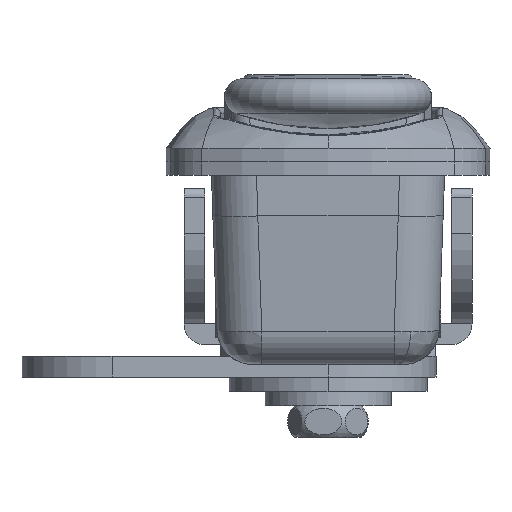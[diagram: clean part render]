
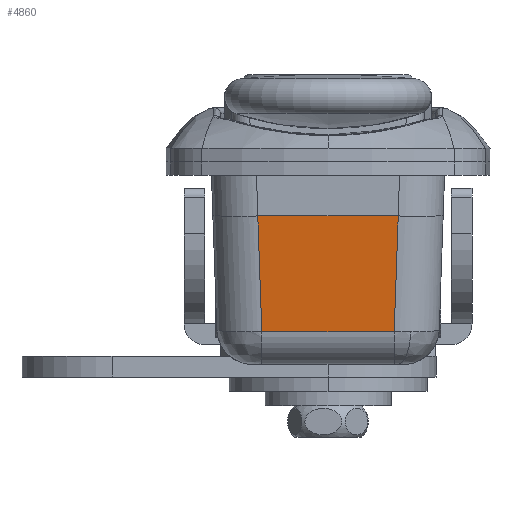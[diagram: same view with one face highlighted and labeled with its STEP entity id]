
A CAD part, front view. The second image highlights one B-rep face of the part: STEP entity #4860.
In plain terms, the highlighted planar face has unit normal (0, -0.996, -0.087).
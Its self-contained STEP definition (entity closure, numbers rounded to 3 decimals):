
#770 = EDGE_LOOP ( 'NONE', ( #8386, #8389, #8388, #8390, #8391, #8392 ) ) ;
#4860 = ADVANCED_FACE ( 'NONE', ( #17280 ), #16669, .F. ) ;
#6728 = VERTEX_POINT ( 'NONE', #19323 ) ;
#6729 = VERTEX_POINT ( 'NONE', #19324 ) ;
#6758 = VERTEX_POINT ( 'NONE', #19353 ) ;
#6759 = VERTEX_POINT ( 'NONE', #19354 ) ;
#6760 = VERTEX_POINT ( 'NONE', #19355 ) ;
#6761 = VERTEX_POINT ( 'NONE', #19356 ) ;
#7337 = EDGE_CURVE ( 'NONE', #6728, #6729, #20258, .T. ) ;
#7405 = EDGE_CURVE ( 'NONE', #6759, #6760, #20938, .T. ) ;
#7406 = EDGE_CURVE ( 'NONE', #6758, #6759, #20941, .T. ) ;
#7407 = EDGE_CURVE ( 'NONE', #6760, #6761, #20944, .T. ) ;
#7408 = EDGE_CURVE ( 'NONE', #6761, #6729, #18734, .T. ) ;
#7409 = EDGE_CURVE ( 'NONE', #6728, #6758, #18735, .T. ) ;
#8386 = ORIENTED_EDGE ( 'NONE', *, *, #7406, .T. ) ;
#8388 = ORIENTED_EDGE ( 'NONE', *, *, #7407, .T. ) ;
#8389 = ORIENTED_EDGE ( 'NONE', *, *, #7405, .T. ) ;
#8390 = ORIENTED_EDGE ( 'NONE', *, *, #7408, .T. ) ;
#8391 = ORIENTED_EDGE ( 'NONE', *, *, #7337, .F. ) ;
#8392 = ORIENTED_EDGE ( 'NONE', *, *, #7409, .T. ) ;
#16669 = PLANE ( 'NONE',  #17281 ) ;
#16670 = CARTESIAN_POINT ( 'NONE',  ( -15., -101.79, -6. ) ) ;
#16671 = DIRECTION ( 'NONE',  ( 0., 0.996, 0.087 ) ) ;
#16672 = DIRECTION ( 'NONE',  ( 0., -0.087, 0.996 ) ) ;
#17280 = FACE_OUTER_BOUND ( 'NONE', #770, .T. ) ;
#17281 = AXIS2_PLACEMENT_3D ( 'NONE', #16670, #16671, #16672 ) ;
#18734 =( BOUNDED_CURVE ( )  B_SPLINE_CURVE ( 3, ( #20947, #20948, #20949, #20950 ),
 .UNSPECIFIED., .F., .F. ) 
 B_SPLINE_CURVE_WITH_KNOTS ( ( 4, 4 ),
 ( 0., 0.002 ),
 .UNSPECIFIED. ) 
 CURVE ( )  GEOMETRIC_REPRESENTATION_ITEM ( )  RATIONAL_B_SPLINE_CURVE ( ( 1., 1., 1., 1. ) ) 
 REPRESENTATION_ITEM ( '' )  );
#18735 =( BOUNDED_CURVE ( )  B_SPLINE_CURVE ( 3, ( #20951, #20952, #20953, #20954 ),
 .UNSPECIFIED., .F., .F. ) 
 B_SPLINE_CURVE_WITH_KNOTS ( ( 4, 4 ),
 ( 6.281, 6.283 ),
 .UNSPECIFIED. ) 
 CURVE ( )  GEOMETRIC_REPRESENTATION_ITEM ( )  RATIONAL_B_SPLINE_CURVE ( ( 1., 1., 1., 1. ) ) 
 REPRESENTATION_ITEM ( '' )  );
#19269 = VECTOR ( 'NONE', #20260, 1000. ) ;
#19323 = CARTESIAN_POINT ( 'NONE',  ( -7.794, -101.79, -6. ) ) ;
#19324 = CARTESIAN_POINT ( 'NONE',  ( 7.794, -101.79, -6. ) ) ;
#19353 = CARTESIAN_POINT ( 'NONE',  ( -7.803, -101.79, -6. ) ) ;
#19354 = CARTESIAN_POINT ( 'NONE',  ( -7.354, -100.666, -18.849 ) ) ;
#19355 = CARTESIAN_POINT ( 'NONE',  ( 7.354, -100.666, -18.849 ) ) ;
#19356 = CARTESIAN_POINT ( 'NONE',  ( 7.803, -101.79, -6. ) ) ;
#20258 = LINE ( 'NONE', #20259, #19269 ) ;
#20259 = CARTESIAN_POINT ( 'NONE',  ( -15., -101.79, -6. ) ) ;
#20260 = DIRECTION ( 'NONE',  ( 1., 0., 0. ) ) ;
#20484 = VECTOR ( 'NONE', #20940, 1000. ) ;
#20485 = VECTOR ( 'NONE', #20943, 1000. ) ;
#20486 = VECTOR ( 'NONE', #20946, 1000. ) ;
#20938 = LINE ( 'NONE', #20939, #20484 ) ;
#20939 = CARTESIAN_POINT ( 'NONE',  ( 7.226, -100.666, -18.849 ) ) ;
#20940 = DIRECTION ( 'NONE',  ( 1., 0., 0. ) ) ;
#20941 = LINE ( 'NONE', #20942, #20485 ) ;
#20942 = CARTESIAN_POINT ( 'NONE',  ( -7.811, -101.812, -5.751 ) ) ;
#20943 = DIRECTION ( 'NONE',  ( 0.035, 0.087, -0.996 ) ) ;
#20944 = LINE ( 'NONE', #20945, #20486 ) ;
#20945 = CARTESIAN_POINT ( 'NONE',  ( 7.775, -101.721, -6.789 ) ) ;
#20946 = DIRECTION ( 'NONE',  ( 0.035, -0.087, 0.996 ) ) ;
#20947 = CARTESIAN_POINT ( 'NONE',  ( 7.803, -101.79, -6. ) ) ;
#20948 = CARTESIAN_POINT ( 'NONE',  ( 7.8, -101.79, -6. ) ) ;
#20949 = CARTESIAN_POINT ( 'NONE',  ( 7.797, -101.79, -6. ) ) ;
#20950 = CARTESIAN_POINT ( 'NONE',  ( 7.794, -101.79, -6. ) ) ;
#20951 = CARTESIAN_POINT ( 'NONE',  ( -7.794, -101.79, -6. ) ) ;
#20952 = CARTESIAN_POINT ( 'NONE',  ( -7.797, -101.79, -6. ) ) ;
#20953 = CARTESIAN_POINT ( 'NONE',  ( -7.8, -101.79, -6. ) ) ;
#20954 = CARTESIAN_POINT ( 'NONE',  ( -7.803, -101.79, -6. ) ) ;
